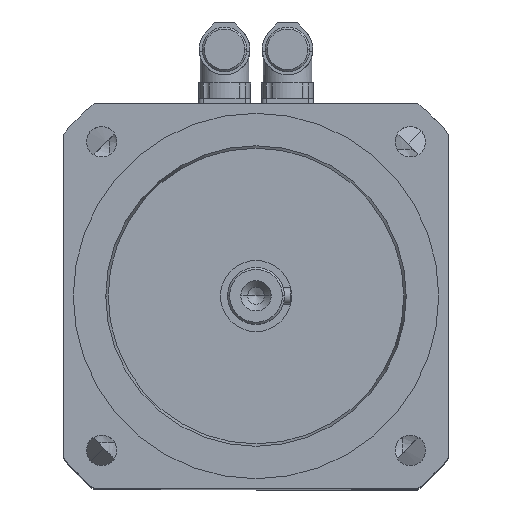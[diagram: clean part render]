
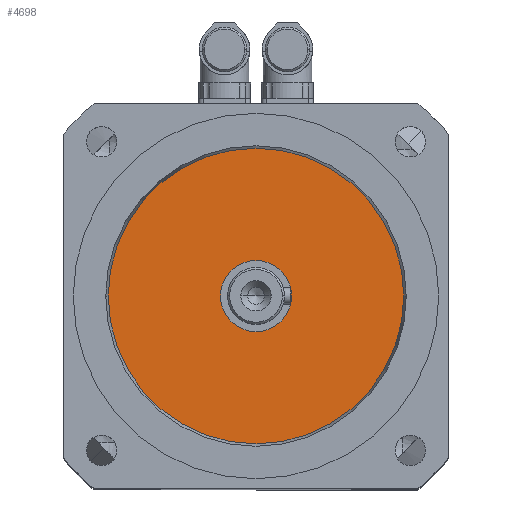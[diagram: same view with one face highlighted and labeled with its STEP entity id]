
A CAD part, top view. The second image highlights one B-rep face of the part: STEP entity #4698.
In plain terms, the highlighted planar face has unit normal (0, 0, 1).
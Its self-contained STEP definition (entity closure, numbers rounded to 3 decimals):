
#3573=CARTESIAN_POINT('',(-72.794,0.,350.5));
#3574=VERTEX_POINT('',#3573);
#3583=CARTESIAN_POINT('',(72.794,0.,350.5));
#3584=VERTEX_POINT('',#3583);
#3585=CARTESIAN_POINT('',(0.,0.0,350.5));
#3586=DIRECTION('',(0.0,0.0,1.0));
#3587=DIRECTION('',(-1.0,0.0,0.0));
#3588=AXIS2_PLACEMENT_3D('',#3585,#3586,#3587);
#3589=CIRCLE('',#3588,72.794);
#3590=EDGE_CURVE('',#3584,#3574,#3589,.T.);
#3835=CARTESIAN_POINT('',(-17.5,0.,350.5));
#3836=VERTEX_POINT('',#3835);
#3845=CARTESIAN_POINT('',(17.5,0.,350.5));
#3846=VERTEX_POINT('',#3845);
#3847=CARTESIAN_POINT('',(0.,0.0,350.5));
#3848=DIRECTION('',(0.0,0.0,-1.0));
#3849=DIRECTION('',(-1.0,0.0,0.0));
#3850=AXIS2_PLACEMENT_3D('',#3847,#3848,#3849);
#3851=CIRCLE('',#3850,17.5);
#3852=EDGE_CURVE('',#3846,#3836,#3851,.T.);
#4481=CARTESIAN_POINT('',(0.,0.0,350.5));
#4482=DIRECTION('',(0.0,0.0,-1.0));
#4483=DIRECTION('',(-1.0,0.0,0.0));
#4484=AXIS2_PLACEMENT_3D('',#4481,#4482,#4483);
#4485=CIRCLE('',#4484,17.5);
#4486=EDGE_CURVE('',#3836,#3846,#4485,.T.);
#4679=CARTESIAN_POINT('',(80.074,-80.074,350.5));
#4680=DIRECTION('',(0.0,0.0,-1.0));
#4681=DIRECTION('',(-1.0,0.0,0.0));
#4682=AXIS2_PLACEMENT_3D('',#4679,#4680,#4681);
#4683=PLANE('',#4682);
#4684=ORIENTED_EDGE('',*,*,#3590,.T.);
#4685=CARTESIAN_POINT('',(0.,0.0,350.5));
#4686=DIRECTION('',(0.0,0.0,1.0));
#4687=DIRECTION('',(-1.0,0.0,0.0));
#4688=AXIS2_PLACEMENT_3D('',#4685,#4686,#4687);
#4689=CIRCLE('',#4688,72.794);
#4690=EDGE_CURVE('',#3574,#3584,#4689,.T.);
#4691=ORIENTED_EDGE('',*,*,#4690,.T.);
#4692=EDGE_LOOP('',(#4684,#4691));
#4693=FACE_OUTER_BOUND('',#4692,.T.);
#4694=ORIENTED_EDGE('',*,*,#3852,.T.);
#4695=ORIENTED_EDGE('',*,*,#4486,.T.);
#4696=EDGE_LOOP('',(#4694,#4695));
#4697=FACE_BOUND('',#4696,.T.);
#4698=ADVANCED_FACE('',(#4693,#4697),#4683,.F.);
